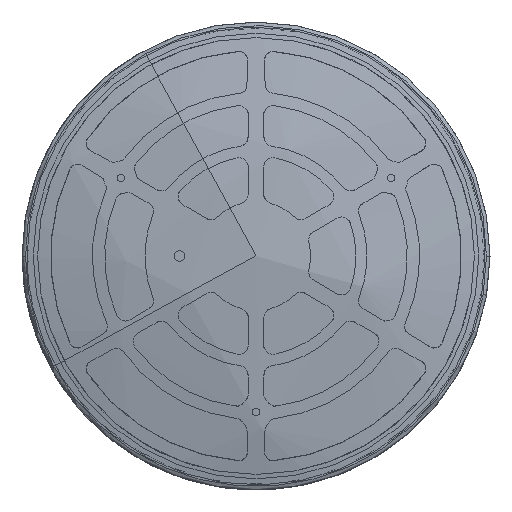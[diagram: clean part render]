
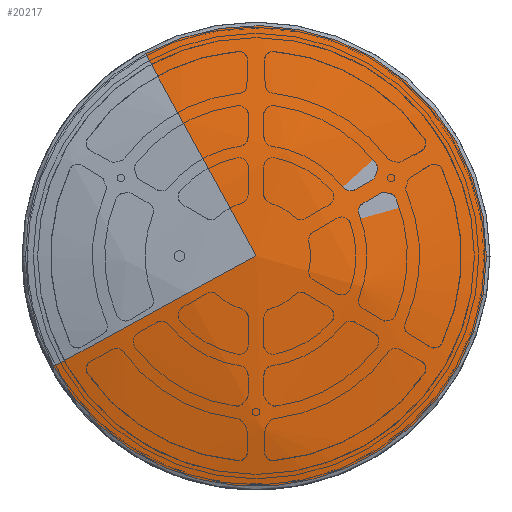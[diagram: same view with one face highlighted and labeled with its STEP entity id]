
A CAD part, top view. The second image highlights one B-rep face of the part: STEP entity #20217.
In plain terms, the highlighted spherical face has radius 285 mm.
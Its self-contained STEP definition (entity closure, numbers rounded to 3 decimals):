
#176 = CIRCLE ( 'NONE', #5669, 285. ) ;
#531 = CIRCLE ( 'NONE', #12563, 285. ) ;
#1485 = DIRECTION ( 'NONE',  ( 0.878, 0.479, 0. ) ) ;
#1662 = ORIENTED_EDGE ( 'NONE', *, *, #15368, .F. ) ;
#1685 = AXIS2_PLACEMENT_3D ( 'NONE', #20985, #15844, #7535 ) ;
#2099 = DIRECTION ( 'NONE',  ( 0., 0., -1. ) ) ;
#2368 = CIRCLE ( 'NONE', #1685, 73.859 ) ;
#2559 = DIRECTION ( 'NONE',  ( 0.479, -0.878, 0. ) ) ;
#2777 = VERTEX_POINT ( 'NONE', #5805 ) ;
#3124 = CARTESIAN_POINT ( 'NONE',  ( 0., 0., 22. ) ) ;
#3972 = FACE_OUTER_BOUND ( 'NONE', #5563, .T. ) ;
#4178 = SPHERICAL_SURFACE ( 'NONE', #17850, 285. ) ;
#4382 = DIRECTION ( 'NONE',  ( 0.479, -0.878, 0. ) ) ;
#5563 = EDGE_LOOP ( 'NONE', ( #19156, #20815, #1662, #20746 ) ) ;
#5669 = AXIS2_PLACEMENT_3D ( 'NONE', #9423, #14286, #16002 ) ;
#5805 = CARTESIAN_POINT ( 'NONE',  ( -64.817, -35.41, 12.263 ) ) ;
#7044 = DIRECTION ( 'NONE',  ( 1., 0., 0. ) ) ;
#7535 = DIRECTION ( 'NONE',  ( 1., 0., 0. ) ) ;
#7941 = EDGE_CURVE ( 'NONE', #12278, #2777, #13794, .T. ) ;
#8179 = CARTESIAN_POINT ( 'NONE',  ( 73.859, 0., 12.263 ) ) ;
#8707 = DIRECTION ( 'NONE',  ( 0.878, 0.479, 0. ) ) ;
#9423 = CARTESIAN_POINT ( 'NONE',  ( 0., 0., -263. ) ) ;
#11518 = EDGE_CURVE ( 'NONE', #13170, #17998, #531, .T. ) ;
#12278 = VERTEX_POINT ( 'NONE', #8179 ) ;
#12563 = AXIS2_PLACEMENT_3D ( 'NONE', #15912, #1485, #4382 ) ;
#12600 = EDGE_CURVE ( 'NONE', #2777, #17998, #176, .T. ) ;
#12611 = CARTESIAN_POINT ( 'NONE',  ( -35.41, 64.817, 12.263 ) ) ;
#13170 = VERTEX_POINT ( 'NONE', #12611 ) ;
#13794 = CIRCLE ( 'NONE', #19951, 73.859 ) ;
#14286 = DIRECTION ( 'NONE',  ( -0.479, 0.878, 0. ) ) ;
#15368 = EDGE_CURVE ( 'NONE', #13170, #12278, #2368, .T. ) ;
#15844 = DIRECTION ( 'NONE',  ( 0., 0., -1. ) ) ;
#15912 = CARTESIAN_POINT ( 'NONE',  ( 0., 0., -263. ) ) ;
#16002 = DIRECTION ( 'NONE',  ( 0.878, 0.479, 0. ) ) ;
#17003 = CARTESIAN_POINT ( 'NONE',  ( 0., 0., -263. ) ) ;
#17850 = AXIS2_PLACEMENT_3D ( 'NONE', #17003, #8707, #2559 ) ;
#17998 = VERTEX_POINT ( 'NONE', #3124 ) ;
#19156 = ORIENTED_EDGE ( 'NONE', *, *, #12600, .F. ) ;
#19951 = AXIS2_PLACEMENT_3D ( 'NONE', #20278, #2099, #7044 ) ;
#20217 = ADVANCED_FACE ( 'NONE', ( #3972 ), #4178, .T. ) ;
#20278 = CARTESIAN_POINT ( 'NONE',  ( 0., 0., 12.263 ) ) ;
#20746 = ORIENTED_EDGE ( 'NONE', *, *, #11518, .T. ) ;
#20815 = ORIENTED_EDGE ( 'NONE', *, *, #7941, .F. ) ;
#20985 = CARTESIAN_POINT ( 'NONE',  ( 0., 0., 12.263 ) ) ;
